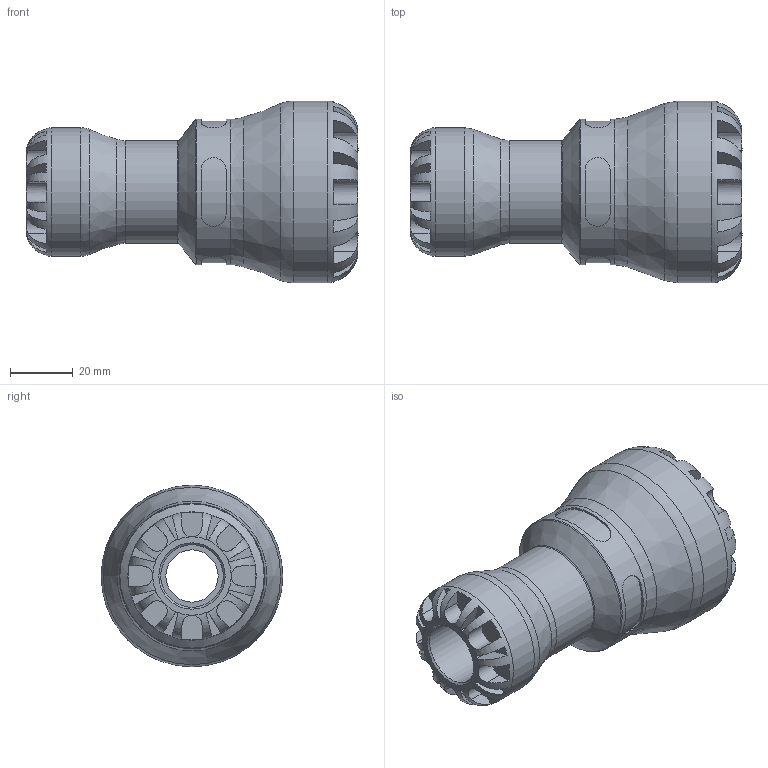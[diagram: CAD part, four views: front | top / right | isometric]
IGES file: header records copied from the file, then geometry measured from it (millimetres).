
Global section: file name: 101100032020_191100032020.ipt; native system: Autodesk Inventor 2015; preprocessor: unknown; author: KIM; date: 20190627.094235; units: millimetre
Bounding box: 106 x 58 x 58 mm (x, y, z)
Volume: 104051.9 mm3; surface area: 29407.8 mm2
Topology: 1 solids, 1 shells, 172 faces, 451 edges, 286 vertices
Faces by surface type: plane 108, revolution 37, cylinder 24, cone 3
Full cylindrical faces by diameter (mm): 32.8 x1, 41 x1, 46.4 x1, 58 x1
